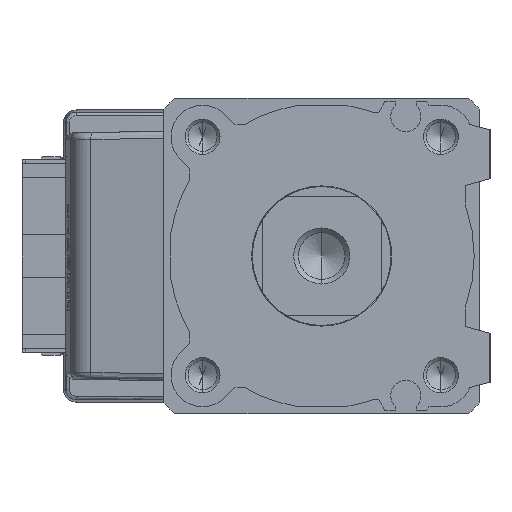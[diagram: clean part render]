
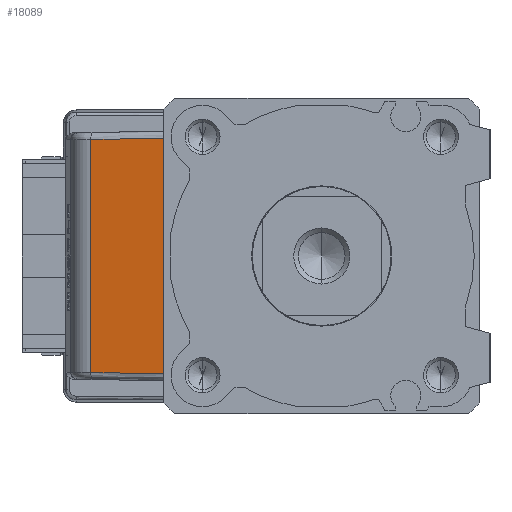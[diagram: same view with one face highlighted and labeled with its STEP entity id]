
A CAD part, left-side view. The second image highlights one B-rep face of the part: STEP entity #18089.
In plain terms, the highlighted planar face has unit normal (-0.985, 0.174, 0) as drawn and (0, 0.174, 0.985) by its records, which use the part's own axes.
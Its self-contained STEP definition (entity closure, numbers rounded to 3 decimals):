
#1028 = CARTESIAN_POINT ( 'NONE',  ( 0., 21., -38.277 ) ) ;
#1498 = VERTEX_POINT ( 'NONE', #5166 ) ;
#1904 = EDGE_CURVE ( 'NONE', #14624, #15464, #32890, .T. ) ;
#5166 = CARTESIAN_POINT ( 'NONE',  ( -16.617, 32.922, -40.379 ) ) ;
#5532 = ORIENTED_EDGE ( 'NONE', *, *, #40224, .T. ) ;
#6400 = VECTOR ( 'NONE', #32313, 1000. ) ;
#6479 = EDGE_CURVE ( 'NONE', #20795, #1498, #12828, .T. ) ;
#9834 = DIRECTION ( 'NONE',  ( 0., -0.174, -0.985 ) ) ;
#10104 = ORIENTED_EDGE ( 'NONE', *, *, #1904, .T. ) ;
#11138 = EDGE_LOOP ( 'NONE', ( #16803, #5532, #10104, #25170 ) ) ;
#12828 = LINE ( 'NONE', #28549, #16021 ) ;
#13484 = VECTOR ( 'NONE', #35540, 1000. ) ;
#13614 = FACE_OUTER_BOUND ( 'NONE', #11138, .T. ) ;
#14624 = VERTEX_POINT ( 'NONE', #15599 ) ;
#15223 = CARTESIAN_POINT ( 'NONE',  ( -16.825, 20.983, -38.274 ) ) ;
#15464 = VERTEX_POINT ( 'NONE', #31881 ) ;
#15599 = CARTESIAN_POINT ( 'NONE',  ( -16.825, 21., -38.277 ) ) ;
#16021 = VECTOR ( 'NONE', #32210, 1000. ) ;
#16803 = ORIENTED_EDGE ( 'NONE', *, *, #6479, .T. ) ;
#18089 = ADVANCED_FACE ( 'NONE', ( #13614 ), #38551, .F. ) ;
#20795 = VERTEX_POINT ( 'NONE', #25507 ) ;
#21073 = AXIS2_PLACEMENT_3D ( 'NONE', #30728, #9834, #37827 ) ;
#23196 = VECTOR ( 'NONE', #30739, 1000. ) ;
#23607 = LINE ( 'NONE', #26423, #6400 ) ;
#25170 = ORIENTED_EDGE ( 'NONE', *, *, #25354, .T. ) ;
#25354 = EDGE_CURVE ( 'NONE', #15464, #20795, #23607, .T. ) ;
#25507 = CARTESIAN_POINT ( 'NONE',  ( 16.617, 32.922, -40.379 ) ) ;
#26423 = CARTESIAN_POINT ( 'NONE',  ( 16.617, 32.905, -40.376 ) ) ;
#28549 = CARTESIAN_POINT ( 'NONE',  ( -17.568, 32.922, -40.379 ) ) ;
#30359 = LINE ( 'NONE', #15223, #23196 ) ;
#30728 = CARTESIAN_POINT ( 'NONE',  ( 0., 21.26, -38.323 ) ) ;
#30739 = DIRECTION ( 'NONE',  ( -0.017, -0.985, 0.174 ) ) ;
#31881 = CARTESIAN_POINT ( 'NONE',  ( 16.825, 21., -38.277 ) ) ;
#32210 = DIRECTION ( 'NONE',  ( -1., 0., 0. ) ) ;
#32313 = DIRECTION ( 'NONE',  ( -0.017, 0.985, -0.174 ) ) ;
#32890 = LINE ( 'NONE', #1028, #13484 ) ;
#35540 = DIRECTION ( 'NONE',  ( 1., 0., 0. ) ) ;
#37827 = DIRECTION ( 'NONE',  ( 1., 0., 0. ) ) ;
#38551 = PLANE ( 'NONE',  #21073 ) ;
#40224 = EDGE_CURVE ( 'NONE', #1498, #14624, #30359, .T. ) ;
